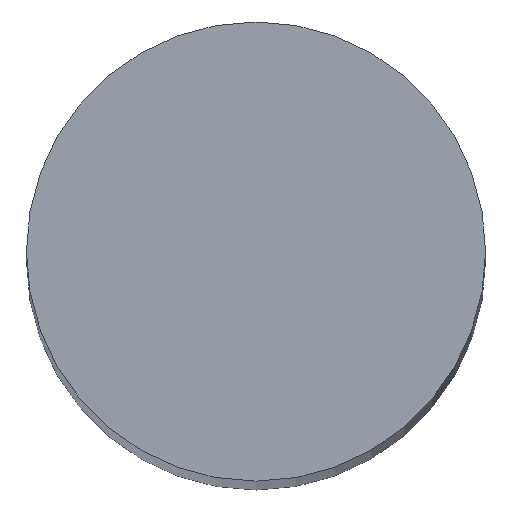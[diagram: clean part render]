
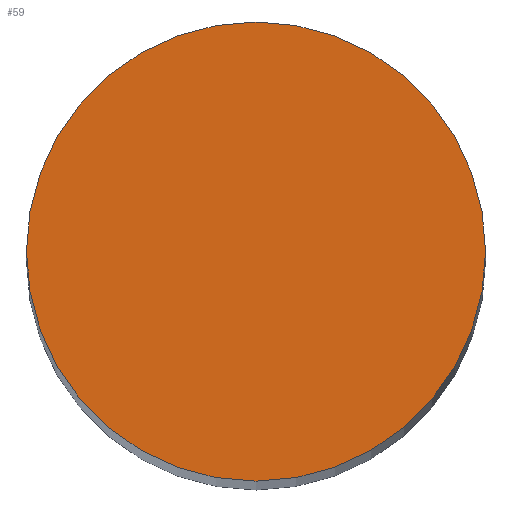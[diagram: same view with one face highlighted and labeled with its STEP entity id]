
A CAD part, top view. The second image highlights one B-rep face of the part: STEP entity #59.
In plain terms, the highlighted planar face has unit normal (0, 0, 1).
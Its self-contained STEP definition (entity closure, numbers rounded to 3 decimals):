
#59=ADVANCED_FACE('',(#113),#114,.T.);
#113=FACE_OUTER_BOUND('',#158,.T.);
#114=PLANE('',#159);
#158=EDGE_LOOP('',(#249,#250));
#159=AXIS2_PLACEMENT_3D('',#251,#252,#253);
#249=ORIENTED_EDGE('',*,*,#287,.T.);
#250=ORIENTED_EDGE('',*,*,#257,.T.);
#251=CARTESIAN_POINT('',(0.0,0.0,0.0));
#252=DIRECTION('',(0.0,0.0,1.0));
#253=DIRECTION('',(1.0,0.0,0.0));
#257=EDGE_CURVE('',#294,#291,#295,.T.);
#287=EDGE_CURVE('',#291,#294,#335,.T.);
#291=VERTEX_POINT('',#339);
#294=VERTEX_POINT('',#343);
#295=CIRCLE('',#344,2.0);
#335=CIRCLE('',#391,2.0);
#339=CARTESIAN_POINT('',(-2.0,0.0,0.0));
#343=CARTESIAN_POINT('',(2.0,0.,0.0));
#344=AXIS2_PLACEMENT_3D('',#395,#396,#397);
#391=AXIS2_PLACEMENT_3D('',#441,#442,#443);
#395=CARTESIAN_POINT('',(0.0,0.0,0.0));
#396=DIRECTION('',(0.0,0.0,1.0));
#397=DIRECTION('',(-1.0,0.0,0.0));
#441=CARTESIAN_POINT('',(0.0,0.0,0.0));
#442=DIRECTION('',(0.0,0.0,1.0));
#443=DIRECTION('',(-1.0,0.0,0.0));
